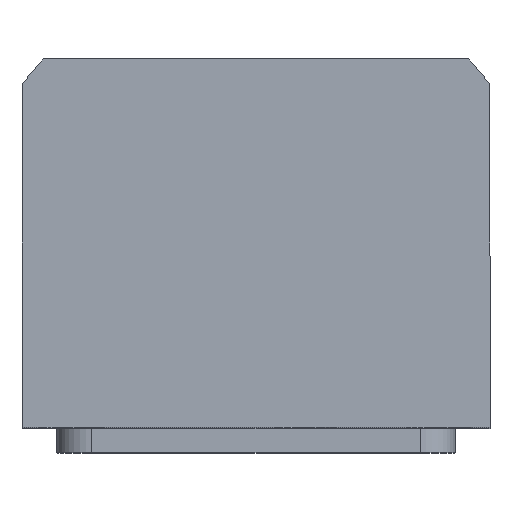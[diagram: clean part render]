
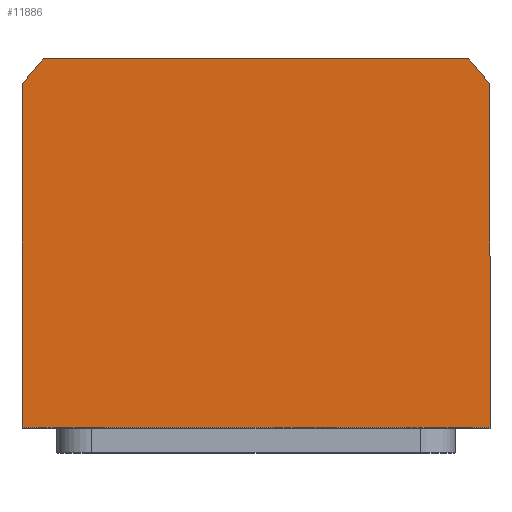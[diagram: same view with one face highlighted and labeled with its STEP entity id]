
A CAD part, top view. The second image highlights one B-rep face of the part: STEP entity #11886.
In plain terms, the highlighted planar face has unit normal (0, 0, 1).
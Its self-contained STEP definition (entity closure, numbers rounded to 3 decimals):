
#35 = VERTEX_POINT ( 'NONE', #14591 ) ;
#322 = VECTOR ( 'NONE', #10934, 1000. ) ;
#505 = LINE ( 'NONE', #7570, #322 ) ;
#544 = CARTESIAN_POINT ( 'NONE',  ( 0., 0., 65. ) ) ;
#609 = EDGE_CURVE ( 'NONE', #2773, #1373, #10089, .T. ) ;
#1232 = VECTOR ( 'NONE', #9060, 1000. ) ;
#1373 = VERTEX_POINT ( 'NONE', #13577 ) ;
#1766 = CARTESIAN_POINT ( 'NONE',  ( 47., -34., 65. ) ) ;
#1768 = CARTESIAN_POINT ( 'NONE',  ( -42.688, 40., 65. ) ) ;
#2211 = DIRECTION ( 'NONE',  ( 1., 0., 0. ) ) ;
#2538 = CARTESIAN_POINT ( 'NONE',  ( 47., 34.832, 65. ) ) ;
#2691 = ORIENTED_EDGE ( 'NONE', *, *, #12774, .T. ) ;
#2773 = VERTEX_POINT ( 'NONE', #5192 ) ;
#2809 = CARTESIAN_POINT ( 'NONE',  ( 47., 34.832, 65. ) ) ;
#3191 = ORIENTED_EDGE ( 'NONE', *, *, #10415, .T. ) ;
#3458 = EDGE_LOOP ( 'NONE', ( #9196, #6256, #9212, #4307, #3191, #2691 ) ) ;
#3773 = LINE ( 'NONE', #12490, #1232 ) ;
#4307 = ORIENTED_EDGE ( 'NONE', *, *, #609, .T. ) ;
#5192 = CARTESIAN_POINT ( 'NONE',  ( 42.688, 40., 65. ) ) ;
#5928 = DIRECTION ( 'NONE',  ( 1., 0., 0. ) ) ;
#5941 = DIRECTION ( 'NONE',  ( 0., 1., 0. ) ) ;
#6256 = ORIENTED_EDGE ( 'NONE', *, *, #8879, .T. ) ;
#6301 = VERTEX_POINT ( 'NONE', #2809 ) ;
#6331 = CARTESIAN_POINT ( 'NONE',  ( -47., 34.832, 65. ) ) ;
#7047 = VECTOR ( 'NONE', #11842, 1000. ) ;
#7374 = DIRECTION ( 'NONE',  ( 1., 0., 0. ) ) ;
#7534 = LINE ( 'NONE', #2538, #14015 ) ;
#7570 = CARTESIAN_POINT ( 'NONE',  ( 47., -34., 65. ) ) ;
#8057 = CIRCLE ( 'NONE', #14509, 58.5 ) ;
#8879 = EDGE_CURVE ( 'NONE', #10481, #6301, #7534, .T. ) ;
#9060 = DIRECTION ( 'NONE',  ( 0., -1., 0. ) ) ;
#9110 = CARTESIAN_POINT ( 'NONE',  ( 0., 0., 65. ) ) ;
#9196 = ORIENTED_EDGE ( 'NONE', *, *, #10504, .T. ) ;
#9212 = ORIENTED_EDGE ( 'NONE', *, *, #9552, .T. ) ;
#9552 = EDGE_CURVE ( 'NONE', #6301, #2773, #8057, .T. ) ;
#10089 = LINE ( 'NONE', #1768, #7047 ) ;
#10415 = EDGE_CURVE ( 'NONE', #1373, #14223, #12190, .T. ) ;
#10481 = VERTEX_POINT ( 'NONE', #1766 ) ;
#10504 = EDGE_CURVE ( 'NONE', #35, #10481, #505, .T. ) ;
#10934 = DIRECTION ( 'NONE',  ( 1., 0., 0. ) ) ;
#11319 = DIRECTION ( 'NONE',  ( 0., 0., 1. ) ) ;
#11420 = AXIS2_PLACEMENT_3D ( 'NONE', #9110, #11319, #2211 ) ;
#11422 = FACE_OUTER_BOUND ( 'NONE', #3458, .T. ) ;
#11629 = CARTESIAN_POINT ( 'NONE',  ( 0., 0., 65. ) ) ;
#11739 = DIRECTION ( 'NONE',  ( 0., 0., 1. ) ) ;
#11842 = DIRECTION ( 'NONE',  ( -1., 0., 0. ) ) ;
#11886 = ADVANCED_FACE ( 'NONE', ( #11422 ), #12447, .T. ) ;
#12190 = CIRCLE ( 'NONE', #12588, 58.5 ) ;
#12447 = PLANE ( 'NONE',  #11420 ) ;
#12490 = CARTESIAN_POINT ( 'NONE',  ( -47., -34., 65. ) ) ;
#12588 = AXIS2_PLACEMENT_3D ( 'NONE', #544, #14373, #7374 ) ;
#12774 = EDGE_CURVE ( 'NONE', #14223, #35, #3773, .T. ) ;
#13577 = CARTESIAN_POINT ( 'NONE',  ( -42.688, 40., 65. ) ) ;
#14015 = VECTOR ( 'NONE', #5941, 1000. ) ;
#14223 = VERTEX_POINT ( 'NONE', #6331 ) ;
#14373 = DIRECTION ( 'NONE',  ( 0., 0., 1. ) ) ;
#14509 = AXIS2_PLACEMENT_3D ( 'NONE', #11629, #11739, #5928 ) ;
#14591 = CARTESIAN_POINT ( 'NONE',  ( -47., -34., 65. ) ) ;
